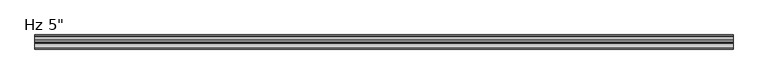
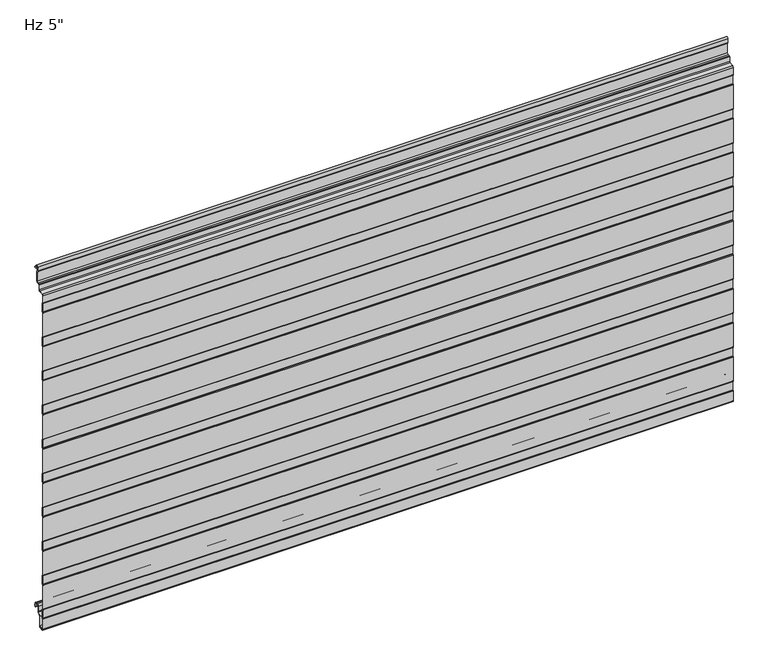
"""IFC4 building model written with IfcOpenShell, lengths in millimetres: plate geometry."""

from ifc_helpers import new_model, si_unit, point, frame, frame_2d, origin, place, context, project, spatial, polyline, circle_curve, trimmed, segment, composite_curve, outline, extrude, source, transform, mapped, element, save


def plate_5fc03b2c(model_context):
    return source(origin(), model_context, "Body", "SweptSolid", [
        extrude(outline(composite_curve([segment(trimmed(circle_curve(frame_2d((-125.5998717, -10.6415934)), 1.3998661), [point((-126.9997378, -10.6415934))], [point((-126.5324955, -9.5976403))], False, "CARTESIAN"), True, "CONTINUOUS"), segment(polyline([(-126.5324955, -9.5976403), (-125.7997693, -8.8649141), (-125.7997693, 10.0260713), (-126.5327349, 10.7590369)]), True, "CONTINUOUS"), segment(trimmed(circle_curve(frame_2d((-125.6000237, 11.8030877)), 1.3999972), [point((-126.5327349, 10.7590369))], [point((-127.0, 11.810741))], False, "CARTESIAN"), True, "CONTINUOUS"), segment(polyline([(-127.0, 11.810741), (-127.0, 65.5582542)]), True, "CONTINUOUS"), segment(trimmed(circle_curve(frame_2d((-125.6000028, 65.5582542)), 1.3999972), [point((-127.0, 65.5582542))], [point((-126.532714, 66.602305))], False, "CARTESIAN"), True, "CONTINUOUS"), segment(polyline([(-126.532714, 66.602305), (-125.7997693, 67.3352497), (-125.7997693, 86.2259189), (-126.5327349, 86.9588845)]), True, "CONTINUOUS"), segment(trimmed(circle_curve(frame_2d((-125.6000237, 88.0029353)), 1.3999972), [point((-126.5327349, 86.9588845))], [point((-127.0, 88.0105886))], False, "CARTESIAN"), True, "CONTINUOUS"), segment(polyline([(-127.0, 88.0105886), (-127.0, 141.7581018)]), True, "CONTINUOUS"), segment(trimmed(circle_curve(frame_2d((-125.6000028, 141.7581018)), 1.3999972), [point((-127.0, 141.7581018))], [point((-126.532714, 142.8021526))], False, "CARTESIAN"), True, "CONTINUOUS"), segment(polyline([(-126.532714, 142.8021526), (-125.7997693, 143.5350973), (-125.7997693, 162.4257665), (-126.5327349, 163.1587321)]), True, "CONTINUOUS"), segment(trimmed(circle_curve(frame_2d((-125.6000237, 164.2027829)), 1.3999972), [point((-126.5327349, 163.1587321))], [point((-127.0, 164.2104362))], False, "CARTESIAN"), True, "CONTINUOUS"), segment(polyline([(-127.0, 164.2104362), (-127.0, 217.9579494)]), True, "CONTINUOUS"), segment(trimmed(circle_curve(frame_2d((-125.6000028, 217.9579494)), 1.3999972), [point((-127.0, 217.9579494))], [point((-126.532714, 219.0020002))], False, "CARTESIAN"), True, "CONTINUOUS"), segment(polyline([(-126.532714, 219.0020002), (-125.7997693, 219.7349449), (-125.7997693, 238.6256141), (-126.5327349, 239.3585797)]), True, "CONTINUOUS"), segment(trimmed(circle_curve(frame_2d((-125.6000237, 240.4026305)), 1.3999972), [point((-126.5327349, 239.3585797))], [point((-127.0, 240.4102838))], False, "CARTESIAN"), True, "CONTINUOUS"), segment(polyline([(-127.0, 240.4102838), (-127.0, 294.157797)]), True, "CONTINUOUS"), segment(trimmed(circle_curve(frame_2d((-125.6000028, 294.157797)), 1.3999972), [point((-127.0, 294.157797))], [point((-126.532714, 295.2018478))], False, "CARTESIAN"), True, "CONTINUOUS"), segment(polyline([(-126.532714, 295.2018478), (-125.7997693, 295.9347925), (-125.7997693, 314.8254617), (-126.5327349, 315.5584273)]), True, "CONTINUOUS"), segment(trimmed(circle_curve(frame_2d((-125.6000237, 316.6024781)), 1.3999972), [point((-126.5327349, 315.5584273))], [point((-127.0, 316.6101314))], False, "CARTESIAN"), True, "CONTINUOUS"), segment(polyline([(-127.0, 316.6101314), (-127.0, 370.3576446)]), True, "CONTINUOUS"), segment(trimmed(circle_curve(frame_2d((-125.6000028, 370.3576446)), 1.3999972), [point((-127.0, 370.3576446))], [point((-126.532714, 371.4016954))], False, "CARTESIAN"), True, "CONTINUOUS"), segment(polyline([(-126.532714, 371.4016954), (-125.7997693, 372.1346401), (-125.7997693, 391.0253093), (-126.5327349, 391.7582749)]), True, "CONTINUOUS"), segment(trimmed(circle_curve(frame_2d((-125.6000237, 392.8023257)), 1.3999972), [point((-126.5327349, 391.7582749))], [point((-127.0, 392.809979))], False, "CARTESIAN"), True, "CONTINUOUS"), segment(polyline([(-127.0, 392.809979), (-127.0, 446.5574922)]), True, "CONTINUOUS"), segment(trimmed(circle_curve(frame_2d((-125.6000028, 446.5574922)), 1.3999972), [point((-127.0, 446.5574922))], [point((-126.532714, 447.601543))], False, "CARTESIAN"), True, "CONTINUOUS"), segment(polyline([(-126.532714, 447.601543), (-125.7997693, 448.3344877), (-125.7997693, 467.2251569), (-126.5327349, 467.9581225)]), True, "CONTINUOUS"), segment(trimmed(circle_curve(frame_2d((-125.6000237, 469.0021733)), 1.3999972), [point((-126.5327349, 467.9581225))], [point((-127.0, 469.0098266))], False, "CARTESIAN"), True, "CONTINUOUS"), segment(polyline([(-127.0, 469.0098266), (-127.0, 522.7573398)]), True, "CONTINUOUS"), segment(trimmed(circle_curve(frame_2d((-125.6000028, 522.7573398)), 1.3999972), [point((-127.0, 522.7573398))], [point((-126.532714, 523.8013906))], False, "CARTESIAN"), True, "CONTINUOUS"), segment(polyline([(-126.532714, 523.8013906), (-125.7997693, 524.5343353), (-125.7997693, 543.4250045), (-126.5327349, 544.1579701)]), True, "CONTINUOUS"), segment(trimmed(circle_curve(frame_2d((-125.6000237, 545.2020209)), 1.3999972), [point((-126.5327349, 544.1579701))], [point((-127.0, 545.2096742))], False, "CARTESIAN"), True, "CONTINUOUS"), segment(polyline([(-127.0, 545.2096742), (-127.0, 598.9571874)]), True, "CONTINUOUS"), segment(trimmed(circle_curve(frame_2d((-125.6000028, 598.9571874)), 1.3999972), [point((-127.0, 598.9571874))], [point((-126.532714, 600.0012382))], False, "CARTESIAN"), True, "CONTINUOUS"), segment(polyline([(-126.532714, 600.0012382), (-125.7997693, 600.7341829), (-125.7997693, 619.6248521), (-126.5327349, 620.3578177)]), True, "CONTINUOUS"), segment(trimmed(circle_curve(frame_2d((-125.6000237, 621.4018685)), 1.3999972), [point((-126.5327349, 620.3578177))], [point((-127.0, 621.4095218))], False, "CARTESIAN"), True, "CONTINUOUS"), segment(polyline([(-127.0, 621.4095218), (-127.0, 675.157035)]), True, "CONTINUOUS"), segment(trimmed(circle_curve(frame_2d((-125.6000028, 675.157035)), 1.3999972), [point((-127.0, 675.157035))], [point((-126.532714, 676.2010858))], False, "CARTESIAN"), True, "CONTINUOUS"), segment(polyline([(-126.532714, 676.2010858), (-125.7997693, 676.9340305), (-125.7997693, 695.8246997), (-126.5327349, 696.5576653)]), True, "CONTINUOUS"), segment(trimmed(circle_curve(frame_2d((-125.6000237, 697.6017161)), 1.3999972), [point((-126.5327349, 696.5576653))], [point((-126.9990984, 697.6525313))], False, "CARTESIAN"), True, "CONTINUOUS"), segment(polyline([(-126.9990984, 697.6525313), (-126.9990984, 713.5384359)]), True, "CONTINUOUS"), segment(trimmed(circle_curve(frame_2d((-124.0491043, 713.5384359)), 2.9499941), [point((-126.9990984, 713.5384359))], [point((-124.3062132, 716.4772044))], False, "CARTESIAN"), True, "CONTINUOUS"), segment(polyline([(-124.3062132, 716.4772044), (-115.8419168, 717.2177344)]), True, "CONTINUOUS"), segment(trimmed(circle_curve(frame_2d((-116.0188426, 719.2400056)), 2.0299959), [point((-115.8419168, 717.2177344))], [point((-113.9914567, 719.3429135))], True, "CARTESIAN"), True, "CONTINUOUS"), segment(polyline([(-113.9914567, 719.3429135), (-113.9914567, 729.4595941)]), True, "CONTINUOUS"), segment(trimmed(circle_curve(frame_2d((-112.0423033, 729.4595941)), 1.9491534), [point((-113.9914567, 729.4595941))], [point((-112.0423033, 731.4087475))], False, "CARTESIAN"), True, "CONTINUOUS"), segment(polyline([(-112.0423033, 731.4087475), (-108.9009036, 731.4087475)]), True, "CONTINUOUS"), segment(trimmed(circle_curve(frame_2d((-108.9009036, 734.4087415)), 2.999994), [point((-108.9009036, 731.4087475))], [point((-105.9009096, 734.4087415))], True, "CARTESIAN"), True, "CONTINUOUS"), segment(polyline([(-105.9009096, 734.4087415), (-105.9009096, 755.0122013), (-107.1467537, 755.7314897)]), True, "CONTINUOUS"), segment(trimmed(circle_curve(frame_2d((-106.4217552, 756.987224)), 1.4499971), [point((-107.1467537, 755.7314897))], [point((-107.8709833, 757.0344401))], False, "CARTESIAN"), True, "CONTINUOUS"), segment(polyline([(-107.8709833, 757.0344401), (-107.526075, 765.7463704)]), True, "CONTINUOUS"), segment(trimmed(circle_curve(frame_2d((-104.4266291, 765.6236622)), 3.1018739), [point((-107.526075, 765.7463704))], [point((-101.3275082, 765.7543204))], False, "CARTESIAN"), True, "CONTINUOUS"), segment(polyline([(-101.3275082, 765.7543204), (-101.0837214, 761.7587)]), True, "CONTINUOUS"), segment(trimmed(circle_curve(frame_2d((-100.2434917, 761.8099653)), 0.8417922), [point((-101.0837214, 761.7587))], [point((-100.2729389, 760.9686884))], True, "CARTESIAN"), True, "CONTINUOUS"), segment(polyline([(-100.2729389, 760.9686884), (-97.5025061, 760.9686884), (-97.5025061, 759.9686884), (-100.2870527, 759.9686884)]), True, "CONTINUOUS"), segment(trimmed(circle_curve(frame_2d((-100.2434917, 761.8099653)), 1.8417922), [point((-100.2870527, 759.9686884))], [point((-102.0818653, 761.6977997))], False, "CARTESIAN"), True, "CONTINUOUS"), segment(polyline([(-102.0818653, 761.6977997), (-102.3262802, 765.7037148)]), True, "CONTINUOUS"), segment(trimmed(circle_curve(frame_2d((-104.4266291, 765.6236622)), 2.1018739), [point((-102.3262802, 765.7037148))], [point((-106.5268578, 765.706811))], True, "CARTESIAN"), True, "CONTINUOUS"), segment(polyline([(-106.5268578, 765.706811), (-106.8821181, 756.7334028), (-104.9009096, 755.5895515), (-104.9009096, 734.4087415)]), True, "CONTINUOUS"), segment(trimmed(circle_curve(frame_2d((-108.9009036, 734.4087415)), 3.999994), [point((-104.9009096, 734.4087415))], [point((-108.9009036, 730.4087475))], False, "CARTESIAN"), True, "CONTINUOUS"), segment(polyline([(-108.9009036, 730.4087475), (-112.0423033, 730.4087475)]), True, "CONTINUOUS"), segment(trimmed(circle_curve(frame_2d((-112.0423033, 729.4595941)), 0.9491534), [point((-112.0423033, 730.4087475))], [point((-112.9914567, 729.4595941))], True, "CARTESIAN"), True, "CONTINUOUS"), segment(polyline([(-112.9914567, 729.4595941), (-112.9914567, 719.3657441)]), True, "CONTINUOUS"), segment(trimmed(circle_curve(frame_2d((-116.0188426, 719.2400056)), 3.0299959), [point((-112.9914567, 719.3657441))], [point((-115.754761, 716.2215397))], False, "CARTESIAN"), True, "CONTINUOUS"), segment(polyline([(-115.754761, 716.2215397), (-124.2190575, 715.4810097)]), True, "CONTINUOUS"), segment(trimmed(circle_curve(frame_2d((-124.0491043, 713.5384359)), 1.9499941), [point((-124.2190575, 715.4810097))], [point((-125.9990984, 713.5384359))], True, "CARTESIAN"), True, "CONTINUOUS"), segment(polyline([(-125.9990984, 713.5384359), (-125.9990984, 697.4396652), (-124.7997693, 696.2403361), (-124.7997693, 676.5209236), (-126.0, 675.3206929), (-126.0, 621.2405611), (-124.7997693, 620.0403304), (-124.7997693, 600.3209179), (-126.0, 599.1206872), (-126.0, 545.0405554), (-124.7997693, 543.8403247), (-124.7997693, 524.1209122), (-126.0, 522.9206815), (-126.0, 468.8405497), (-124.7997693, 467.640319), (-124.7997693, 447.9209065), (-126.0, 446.7206758), (-126.0, 392.640544), (-124.7997693, 391.4403133), (-124.7997693, 371.7209008), (-126.0, 370.5206701), (-126.0, 316.4405383), (-124.7997693, 315.2403076), (-124.7997693, 295.5208951), (-126.0, 294.3206644), (-126.0, 240.2405326), (-124.7997693, 239.0403019), (-124.7997693, 219.3208894), (-126.0, 218.1206587), (-126.0, 164.0405269), (-124.7997693, 162.8402962), (-124.7997693, 143.1208837), (-126.0, 141.920653), (-126.0, 87.8405213), (-124.7997693, 86.6402905), (-124.7997693, 66.920878), (-126.0, 65.7206473), (-126.0, 11.6405156), (-124.7997693, 10.4402849), (-124.7997693, -9.2791277), (-125.9997378, -10.4790962), (-125.9997378, -32.4521176)]), True, "CONTINUOUS"), segment(trimmed(circle_curve(frame_2d((-123.4294985, -32.4521176)), 2.5702393), [point((-125.9997378, -32.4521176))], [point((-123.2054129, -35.0125699))], True, "CARTESIAN"), True, "CONTINUOUS"), segment(polyline([(-123.2054129, -35.0125699), (-118.223592, -34.5765709)]), True, "CONTINUOUS"), segment(trimmed(circle_curve(frame_2d((-118.7049826, -31.9198392)), 2.6999926), [point((-118.223592, -34.5765709))], [point((-116.00499, -31.9198392))], True, "CARTESIAN"), True, "CONTINUOUS"), segment(polyline([(-116.00499, -31.9198392), (-116.00499, -9.8247096), (-110.5029189, -4.3226385)]), True, "CONTINUOUS"), segment(trimmed(circle_curve(frame_2d((-111.7049966, -3.1205608)), 1.6999946), [point((-110.5029189, -4.3226385))], [point((-110.005002, -3.1205608))], True, "CARTESIAN"), True, "CONTINUOUS"), segment(polyline([(-110.005002, -3.1205608), (-110.005002, 8.6903283)]), True, "CONTINUOUS"), segment(trimmed(circle_curve(frame_2d((-106.6550067, 8.6903283)), 3.3499953), [point((-110.005002, 8.6903283))], [point((-106.6550067, 12.0403236))], False, "CARTESIAN"), True, "CONTINUOUS"), segment(polyline([(-106.6550067, 12.0403236), (-102.2550155, 12.0403236)]), True, "CONTINUOUS"), segment(trimmed(circle_curve(frame_2d((-102.2550155, 8.6903283)), 3.3499953), [point((-102.2550155, 12.0403236))], [point((-98.9050202, 8.6903283))], False, "CARTESIAN"), True, "CONTINUOUS"), segment(polyline([(-98.9050202, 8.6903283), (-98.9050202, 5.9912173), (-97.5065413, 5.9912173), (-97.5065413, 2.2328239)]), True, "CONTINUOUS"), segment(trimmed(circle_curve(frame_2d((-98.706538, 2.2313092)), 1.1999976), [point((-97.5065413, 2.2328239))], [point((-98.6760161, 1.0316999))], False, "CARTESIAN"), True, "CONTINUOUS"), segment(trimmed(circle_curve(frame_2d((-98.706538, 2.2313092)), 1.1999976), [point((-98.6760161, 1.0316999))], [point((-99.9050202, 2.1710221))], False, "CARTESIAN"), True, "CONTINUOUS"), segment(polyline([(-99.9050202, 2.1710221), (-99.9050202, 8.6903283)]), True, "CONTINUOUS"), segment(trimmed(circle_curve(frame_2d((-102.2550155, 8.6903283)), 2.3499953), [point((-99.9050202, 8.6903283))], [point((-102.2550155, 11.0403236))], True, "CARTESIAN"), True, "CONTINUOUS"), segment(polyline([(-102.2550155, 11.0403236), (-106.6550067, 11.0403236)]), True, "CONTINUOUS"), segment(trimmed(circle_curve(frame_2d((-106.6550067, 8.6903283)), 2.3499953), [point((-106.6550067, 11.0403236))], [point((-109.005002, 8.6903283))], True, "CARTESIAN"), True, "CONTINUOUS"), segment(polyline([(-109.005002, 8.6903283), (-109.005002, -3.1205608)]), True, "CONTINUOUS"), segment(trimmed(circle_curve(frame_2d((-111.7049966, -3.1205608)), 2.6999946), [point((-109.005002, -3.1205608))], [point((-109.7958121, -5.0297453))], False, "CARTESIAN"), True, "CONTINUOUS"), segment(polyline([(-109.7958121, -5.0297453), (-114.6242296, -9.8581627)]), True, "CONTINUOUS"), segment(trimmed(circle_curve(frame_2d((-113.7049926, -10.7773997)), 1.2999974), [point((-114.6242296, -9.8581627))], [point((-115.00499, -10.7773997))], True, "CARTESIAN"), True, "CONTINUOUS"), segment(polyline([(-115.00499, -10.7773997), (-115.00499, -31.9198392)]), True, "CONTINUOUS"), segment(trimmed(circle_curve(frame_2d((-118.7049826, -31.9198392)), 3.6999926), [point((-115.00499, -31.9198392))], [point((-118.0941815, -35.5690675))], False, "CARTESIAN"), True, "CONTINUOUS"), segment(polyline([(-118.0941815, -35.5690675), (-123.1182281, -36.008762)]), True, "CONTINUOUS"), segment(trimmed(circle_curve(frame_2d((-123.4294985, -32.4521176)), 3.5702393), [point((-123.1182281, -36.008762))], [point((-126.9997378, -32.4521176))], False, "CARTESIAN"), True, "CONTINUOUS"), segment(polyline([(-126.9997378, -32.4521176), (-126.9997378, -10.6415934)]), True, "CONTINUOUS")], self_intersect=False)), frame((-730.0, 0.0, 0.0), z_axis=(1.0, 0.0, 0.0), x_axis=(0.0, 1.0, 0.0)), (0.0, 0.0, 1.0), 1460.0),
    ])


if __name__ == "__main__":
    model = new_model("IFC4")
    model_context = context("Model", 3, world=origin())
    ifc_project = project(units=[si_unit("LENGTHUNIT", "METRE", prefix="MILLI")], contexts=[model_context])
    site = spatial("IfcSite", under=ifc_project)
    building = spatial("IfcBuilding", under=site)
    placement = place(None, origin())
    plate_shape = plate_5fc03b2c(model_context)
    element("IfcPlate", 1, ObjectType="KIP-30-Karrier-KP-R19-CP-Hz-SL_SL : Hz 5\"", at=placement, inside=building, context=model_context, shape_type="MappedRepresentation", body=[
        mapped(plate_shape, transform((0.0, 0.0, 0.0), x_axis=(1.0, 0.0, 0.0), y_axis=(0.0, 1.0, 0.0), z_axis=(0.0, 0.0, 1.0))),
    ])
    save(model, "model.ifc")
